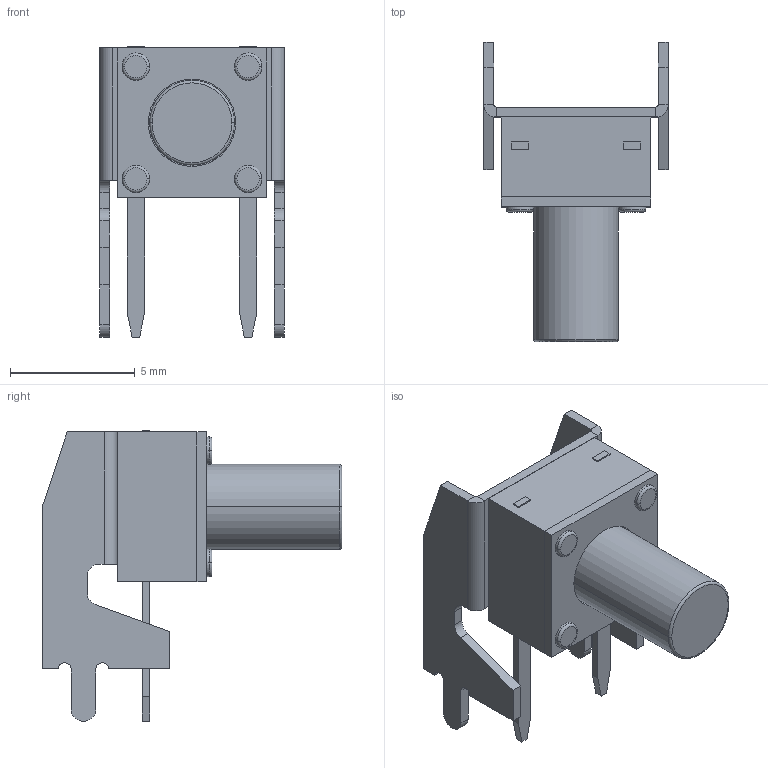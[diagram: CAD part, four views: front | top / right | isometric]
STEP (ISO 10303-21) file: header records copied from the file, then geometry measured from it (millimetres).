
FILE_DESCRIPTION((''),'2;1');
FILE_NAME('JQC6060O-C0901-01G-101_ASM','2026-05-13T10:03:40',('Admin'),(''),'CREO PARAMETRIC BY PTC INC, 2019224','CREO PARAMETRIC BY PTC INC, 2019224','');
FILE_SCHEMA(('AUTOMOTIVE_DESIGN { 1 0 10303 214 1 1 1 1 }'));
Length unit declared in the file: millimetre
Products named in the file (4): JQC6060O-C0901-01G-101_01; JQC6060O-C0901-01G-101_02; JQC6060O-C0901-01G-101_03; JQC6060O-C0901-01G-101_ASM
Assembly tree (3 placements, depth 2):
  JQC6060O-C0901-01G-101_ASM
    JQC6060O-C0901-01G-101_01
    JQC6060O-C0901-01G-101_02
    JQC6060O-C0901-01G-101_03
Bounding box: 7.4 x 12 x 11.65 mm (x, y, z)
Volume: 219.7 mm3; surface area: 527.5 mm2
Topology: 3 solids, 3 shells, 123 faces, 298 edges, 206 vertices
Faces by surface type: plane 79, cylinder 34, torus 10
Entity records: 4325 total; most frequent: DIRECTION 664, CARTESIAN_POINT 629, ORIENTED_EDGE 572, EDGE_CURVE 286, AXIS2_PLACEMENT_3D 227, VECTOR 210, LINE 210, VERTEX_POINT 182
